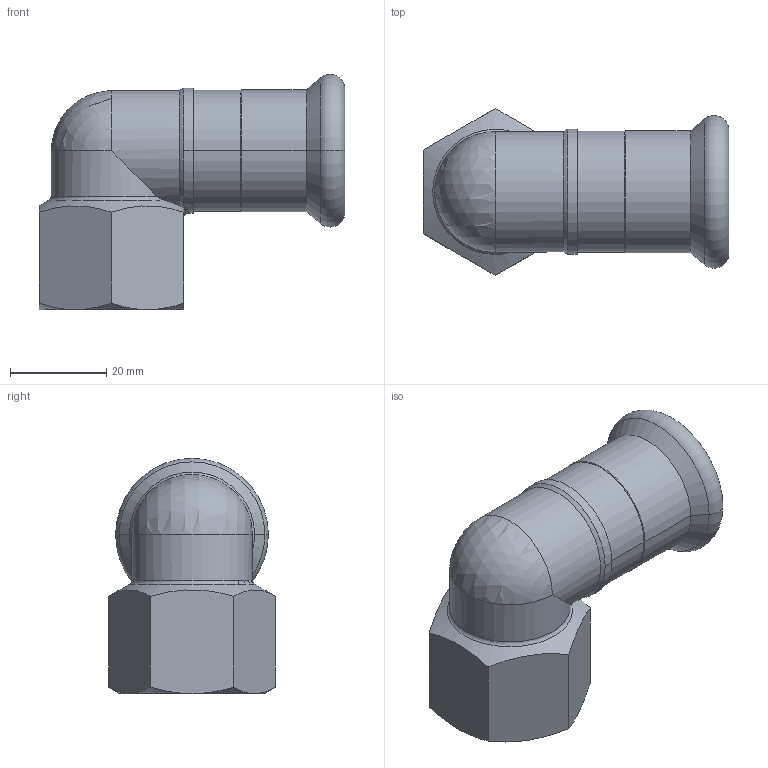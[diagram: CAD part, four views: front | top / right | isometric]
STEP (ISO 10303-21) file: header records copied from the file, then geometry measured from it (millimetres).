
FILE_DESCRIPTION(('Creo Elements/Direct Modeling STEP Export'),'2;1');
FILE_NAME('R2709 22xRp3-4.stp','2019-09-25T 8:22:52',(''),(''),'PTC Creo Elements/Direct Modeling STEP processor for AP214 (Solid Model)','PTC Creo Elements/Direct Modeling 19.0C 15-Aug-2015 (C) Parametric Technology GmbH','');
FILE_SCHEMA(('AUTOMOTIVE_DESIGN { 1 0 10303 214 1 1 1 1 }'));
Length unit declared in the file: millimetre
Products named in the file (1): R2709_22xRp3-4
Bounding box: 63.5 x 34.64 x 48.85 mm (x, y, z)
Volume: 17031.6 mm3; surface area: 14033.6 mm2
Topology: 1 solids, 1 shells, 87 faces, 219 edges, 138 vertices
Faces by surface type: plane 40, cylinder 29, cone 12, torus 4, sphere 2
Entity records: 3580 total; most frequent: CARTESIAN_POINT 1596, ORIENTED_EDGE 430, DIRECTION 361, EDGE_CURVE 215, VERTEX_POINT 138, AXIS2_PLACEMENT_3D 129, EDGE_LOOP 103, VECTOR 103
